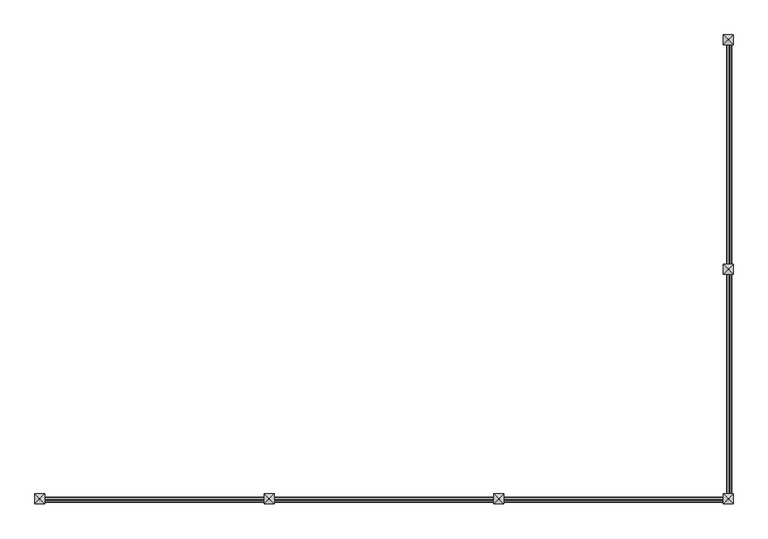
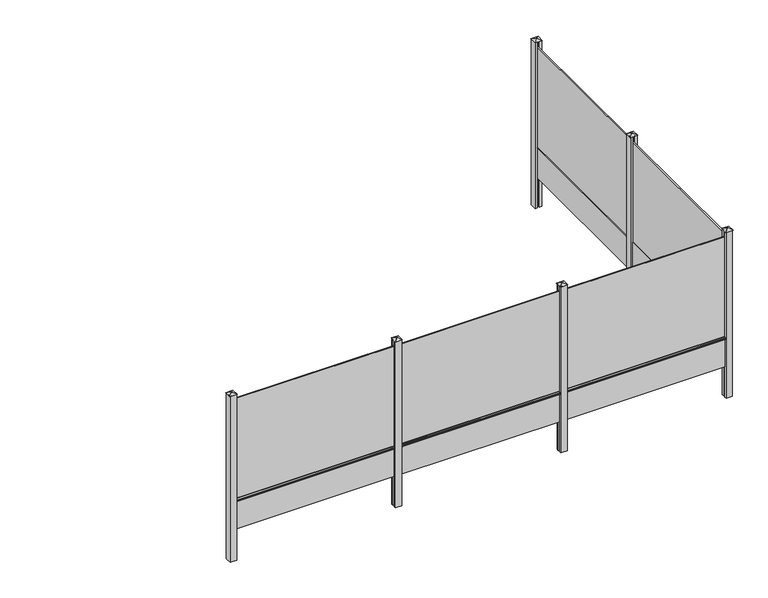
"""IFC4 building model written with IfcOpenShell, lengths in millimetres: railing geometry, Mehat - Railing - Plaque de Soubassement - Classique pour clôture rigide - 254x50x3.4 cm."""

from ifc_helpers import new_model, si_unit, point, frame, frame_2d, origin, origin_with_axes, place, context, project, spatial, polyline, circle_curve, trimmed, segment, composite_curve, outline, extrude, faceted_brep, source, transform, mapped, element, save


def railing_afe94d72(model_context):
    return source(origin(), model_context, "Body", "SolidModel", [
        extrude(outline(polyline([(63896.2516516, -10787.4943936), (63879.2516516, -10787.4943936), (63879.2516516, -8247.4943936), (63896.2516516, -8247.4943936), (63896.2516516, -10787.4943936)])), frame((0.0, 0.0, 500.0), z_axis=(0.0, 0.0, 1.0), x_axis=(1.0, 0.0, 0.0)), (0.0, 0.0, 1.0), 1650.0),
        extrude(outline(polyline([(63904.7516516, -10787.4943936), (63870.7516516, -10787.4943936), (63870.7516516, -8247.4943936), (63904.7516516, -8247.4943936), (63904.7516516, -10787.4943936)])), origin_with_axes(), (0.0, 0.0, 1.0), 500.0),
        extrude(outline(composite_curve([segment(polyline([(460.0, 63904.7516516), (467.1937129, 63926.3327905)]), True, "CONTINUOUS"), segment(trimmed(circle_curve(frame_2d((471.9371294, 63924.7516516)), 5.0), [point((467.1937129, 63926.3327905))], [point((471.9371294, 63929.7516516))], False, "CARTESIAN"), True, "CONTINUOUS"), segment(polyline([(471.9371294, 63929.7516516), (488.0628706, 63929.7516516)]), True, "CONTINUOUS"), segment(trimmed(circle_curve(frame_2d((488.0628706, 63924.7516516)), 5.0), [point((488.0628706, 63929.7516516))], [point((492.8062871, 63926.3327905))], False, "CARTESIAN"), True, "CONTINUOUS"), segment(polyline([(492.8062871, 63926.3327905), (500.0, 63904.7516516), (460.0, 63904.7516516)]), True, "CONTINUOUS")], self_intersect=False)), frame((0.0, -10762.4943936, 0.0), z_axis=(0.0, 1.0, 0.0), x_axis=(0.0, 0.0, 1.0)), (0.0, 0.0, 1.0), 2490.0),
        extrude(outline(polyline([(63937.7516516, -10862.4943936), (63904.7516516, -10862.4943936), (63904.7516516, -10837.4943936), (63870.7516516, -10837.4943936), (63870.7516516, -10862.4943936), (63837.7516516, -10862.4943936), (63837.7516516, -10762.4943936), (63870.7516516, -10762.4943936), (63870.7516516, -10787.4943936), (63904.7516516, -10787.4943936), (63904.7516516, -10762.4943936), (63937.7516516, -10762.4943936), (63937.7516516, -10862.4943936)])), frame((0.0, 0.0, -500.0), z_axis=(0.0, 0.0, 1.0), x_axis=(1.0, 0.0, 0.0)), (0.0, 0.0, 1.0), 2750.0),
        faceted_brep([(63881.3471055, -10806.1443936, 2275.4), (63881.3471055, -10818.8443936, 2275.4), (63894.0471055, -10818.8443936, 2275.4), (63894.0471055, -10806.1443936, 2275.4), (63831.4016516, -10756.1443936, 2250.0), (63944.1016516, -10756.1443936, 2250.0), (63944.1016516, -10868.8443936, 2250.0), (63831.4016516, -10868.8443936, 2250.0)], [[[0, 1, 2, 3]], [[4, 5, 6, 7]], [[4, 0, 3, 5]], [[5, 3, 2, 6]], [[6, 2, 1, 7]], [[7, 1, 0, 4]]]),
        extrude(outline(polyline([(63896.2516516, -13377.4943936), (63879.2516516, -13377.4943936), (63879.2516516, -10837.4943936), (63896.2516516, -10837.4943936), (63896.2516516, -13377.4943936)])), frame((0.0, 0.0, 500.0), z_axis=(0.0, 0.0, 1.0), x_axis=(1.0, 0.0, 0.0)), (0.0, 0.0, 1.0), 1650.0),
        extrude(outline(polyline([(63904.7516516, -13377.4943936), (63870.7516516, -13377.4943936), (63870.7516516, -10837.4943936), (63904.7516516, -10837.4943936), (63904.7516516, -13377.4943936)])), origin_with_axes(), (0.0, 0.0, 1.0), 500.0),
        extrude(outline(composite_curve([segment(polyline([(460.0, 63904.7516516), (467.1937129, 63926.3327905)]), True, "CONTINUOUS"), segment(trimmed(circle_curve(frame_2d((471.9371294, 63924.7516516)), 5.0), [point((467.1937129, 63926.3327905))], [point((471.9371294, 63929.7516516))], False, "CARTESIAN"), True, "CONTINUOUS"), segment(polyline([(471.9371294, 63929.7516516), (488.0628706, 63929.7516516)]), True, "CONTINUOUS"), segment(trimmed(circle_curve(frame_2d((488.0628706, 63924.7516516)), 5.0), [point((488.0628706, 63929.7516516))], [point((492.8062871, 63926.3327905))], False, "CARTESIAN"), True, "CONTINUOUS"), segment(polyline([(492.8062871, 63926.3327905), (500.0, 63904.7516516), (460.0, 63904.7516516)]), True, "CONTINUOUS")], self_intersect=False)), frame((0.0, -13352.4943936, 0.0), z_axis=(0.0, 1.0, 0.0), x_axis=(0.0, 0.0, 1.0)), (0.0, 0.0, 1.0), 2490.0),
        extrude(outline(polyline([(61322.7516516, -13410.9943936), (61322.7516516, -13393.9943936), (63862.7516516, -13393.9943936), (63862.7516516, -13410.9943936), (61322.7516516, -13410.9943936)])), frame((0.0, 0.0, 500.0), z_axis=(0.0, 0.0, 1.0), x_axis=(1.0, 0.0, 0.0)), (0.0, 0.0, 1.0), 1650.0),
        extrude(outline(polyline([(61322.7516516, -13419.4943936), (61322.7516516, -13385.4943936), (63862.7516516, -13385.4943936), (63862.7516516, -13419.4943936), (61322.7516516, -13419.4943936)])), origin_with_axes(), (0.0, 0.0, 1.0), 500.0),
        extrude(outline(composite_curve([segment(polyline([(-13419.4943936, 460.0), (-13441.0755325, 467.1937129)]), True, "CONTINUOUS"), segment(trimmed(circle_curve(frame_2d((-13439.4943936, 471.9371294)), 5.0), [point((-13441.0755325, 467.1937129))], [point((-13444.4943936, 471.9371294))], False, "CARTESIAN"), True, "CONTINUOUS"), segment(polyline([(-13444.4943936, 471.9371294), (-13444.4943936, 488.0628706)]), True, "CONTINUOUS"), segment(trimmed(circle_curve(frame_2d((-13439.4943936, 488.0628706)), 5.0), [point((-13444.4943936, 488.0628706))], [point((-13441.0755325, 492.8062871))], False, "CARTESIAN"), True, "CONTINUOUS"), segment(polyline([(-13441.0755325, 492.8062871), (-13419.4943936, 500.0), (-13419.4943936, 460.0)]), True, "CONTINUOUS")], self_intersect=False)), frame((61347.7516516, 0.0, 0.0), z_axis=(1.0, 0.0, 0.0), x_axis=(0.0, 1.0, 0.0)), (0.0, 0.0, 1.0), 2490.0),
        extrude(outline(polyline([(61247.7516516, -13452.4943936), (61247.7516516, -13419.4943936), (61272.7516516, -13419.4943936), (61272.7516516, -13385.4943936), (61247.7516516, -13385.4943936), (61247.7516516, -13352.4943936), (61347.7516516, -13352.4943936), (61347.7516516, -13385.4943936), (61322.7516516, -13385.4943936), (61322.7516516, -13419.4943936), (61347.7516516, -13419.4943936), (61347.7516516, -13452.4943936), (61247.7516516, -13452.4943936)])), frame((0.0, 0.0, -500.0), z_axis=(0.0, 0.0, 1.0), x_axis=(1.0, 0.0, 0.0)), (0.0, 0.0, 1.0), 2750.0),
        faceted_brep([(61304.1016516, -13396.0898475, 2275.4), (61291.4016516, -13396.0898475, 2275.4), (61291.4016516, -13408.7898475, 2275.4), (61304.1016516, -13408.7898475, 2275.4), (61354.1016516, -13346.1443936, 2250.0), (61354.1016516, -13458.8443936, 2250.0), (61241.4016516, -13458.8443936, 2250.0), (61241.4016516, -13346.1443936, 2250.0)], [[[0, 1, 2, 3]], [[4, 5, 6, 7]], [[4, 0, 3, 5]], [[5, 3, 2, 6]], [[6, 2, 1, 7]], [[7, 1, 0, 4]]]),
        extrude(outline(polyline([(58732.7516516, -13410.9943936), (58732.7516516, -13393.9943936), (61272.7516516, -13393.9943936), (61272.7516516, -13410.9943936), (58732.7516516, -13410.9943936)])), frame((0.0, 0.0, 500.0), z_axis=(0.0, 0.0, 1.0), x_axis=(1.0, 0.0, 0.0)), (0.0, 0.0, 1.0), 1650.0),
        extrude(outline(polyline([(58732.7516516, -13419.4943936), (58732.7516516, -13385.4943936), (61272.7516516, -13385.4943936), (61272.7516516, -13419.4943936), (58732.7516516, -13419.4943936)])), origin_with_axes(), (0.0, 0.0, 1.0), 500.0),
        extrude(outline(composite_curve([segment(polyline([(-13419.4943936, 460.0), (-13441.0755325, 467.1937129)]), True, "CONTINUOUS"), segment(trimmed(circle_curve(frame_2d((-13439.4943936, 471.9371294)), 5.0), [point((-13441.0755325, 467.1937129))], [point((-13444.4943936, 471.9371294))], False, "CARTESIAN"), True, "CONTINUOUS"), segment(polyline([(-13444.4943936, 471.9371294), (-13444.4943936, 488.0628706)]), True, "CONTINUOUS"), segment(trimmed(circle_curve(frame_2d((-13439.4943936, 488.0628706)), 5.0), [point((-13444.4943936, 488.0628706))], [point((-13441.0755325, 492.8062871))], False, "CARTESIAN"), True, "CONTINUOUS"), segment(polyline([(-13441.0755325, 492.8062871), (-13419.4943936, 500.0), (-13419.4943936, 460.0)]), True, "CONTINUOUS")], self_intersect=False)), frame((58757.7516516, 0.0, 0.0), z_axis=(1.0, 0.0, 0.0), x_axis=(0.0, 1.0, 0.0)), (0.0, 0.0, 1.0), 2490.0),
        extrude(outline(polyline([(58657.7516516, -13452.4943936), (58657.7516516, -13419.4943936), (58682.7516516, -13419.4943936), (58682.7516516, -13385.4943936), (58657.7516516, -13385.4943936), (58657.7516516, -13352.4943936), (58757.7516516, -13352.4943936), (58757.7516516, -13385.4943936), (58732.7516516, -13385.4943936), (58732.7516516, -13419.4943936), (58757.7516516, -13419.4943936), (58757.7516516, -13452.4943936), (58657.7516516, -13452.4943936)])), frame((0.0, 0.0, -500.0), z_axis=(0.0, 0.0, 1.0), x_axis=(1.0, 0.0, 0.0)), (0.0, 0.0, 1.0), 2750.0),
        faceted_brep([(58714.1016516, -13396.0898475, 2275.4), (58701.4016516, -13396.0898475, 2275.4), (58701.4016516, -13408.7898475, 2275.4), (58714.1016516, -13408.7898475, 2275.4), (58764.1016516, -13346.1443936, 2250.0), (58764.1016516, -13458.8443936, 2250.0), (58651.4016516, -13458.8443936, 2250.0), (58651.4016516, -13346.1443936, 2250.0)], [[[0, 1, 2, 3]], [[4, 5, 6, 7]], [[4, 0, 3, 5]], [[5, 3, 2, 6]], [[6, 2, 1, 7]], [[7, 1, 0, 4]]]),
        extrude(outline(polyline([(56142.7516516, -13410.9943936), (56142.7516516, -13393.9943936), (58682.7516516, -13393.9943936), (58682.7516516, -13410.9943936), (56142.7516516, -13410.9943936)])), frame((0.0, 0.0, 500.0), z_axis=(0.0, 0.0, 1.0), x_axis=(1.0, 0.0, 0.0)), (0.0, 0.0, 1.0), 1650.0),
        extrude(outline(polyline([(56142.7516516, -13419.4943936), (56142.7516516, -13385.4943936), (58682.7516516, -13385.4943936), (58682.7516516, -13419.4943936), (56142.7516516, -13419.4943936)])), origin_with_axes(), (0.0, 0.0, 1.0), 500.0),
        extrude(outline(composite_curve([segment(polyline([(-13419.4943936, 460.0), (-13441.0755325, 467.1937129)]), True, "CONTINUOUS"), segment(trimmed(circle_curve(frame_2d((-13439.4943936, 471.9371294)), 5.0), [point((-13441.0755325, 467.1937129))], [point((-13444.4943936, 471.9371294))], False, "CARTESIAN"), True, "CONTINUOUS"), segment(polyline([(-13444.4943936, 471.9371294), (-13444.4943936, 488.0628706)]), True, "CONTINUOUS"), segment(trimmed(circle_curve(frame_2d((-13439.4943936, 488.0628706)), 5.0), [point((-13444.4943936, 488.0628706))], [point((-13441.0755325, 492.8062871))], False, "CARTESIAN"), True, "CONTINUOUS"), segment(polyline([(-13441.0755325, 492.8062871), (-13419.4943936, 500.0), (-13419.4943936, 460.0)]), True, "CONTINUOUS")], self_intersect=False)), frame((56167.7516516, 0.0, 0.0), z_axis=(1.0, 0.0, 0.0), x_axis=(0.0, 1.0, 0.0)), (0.0, 0.0, 1.0), 2490.0),
        extrude(outline(polyline([(63837.7516516, -13452.4943936), (63837.7516516, -13419.4943936), (63862.7516516, -13419.4943936), (63862.7516516, -13385.4943936), (63837.7516516, -13385.4943936), (63837.7516516, -13352.4943936), (63870.7516516, -13352.4943936), (63870.7516516, -13377.4943936), (63904.7516516, -13377.4943936), (63904.7516516, -13352.4943936), (63937.7516516, -13352.4943936), (63937.7516516, -13452.4943936), (63837.7516516, -13452.4943936)])), frame((0.0, 0.0, -500.0), z_axis=(0.0, 0.0, 1.0), x_axis=(1.0, 0.0, 0.0)), (0.0, 0.0, 1.0), 2750.0),
        faceted_brep([(63894.1016516, -13396.0898475, 2275.4), (63881.4016516, -13396.0898475, 2275.4), (63881.4016516, -13408.7898475, 2275.4), (63894.1016516, -13408.7898475, 2275.4), (63944.1016516, -13346.1443936, 2250.0), (63944.1016516, -13458.8443936, 2250.0), (63831.4016516, -13458.8443936, 2250.0), (63831.4016516, -13346.1443936, 2250.0)], [[[0, 1, 2, 3]], [[4, 5, 6, 7]], [[4, 0, 3, 5]], [[5, 3, 2, 6]], [[6, 2, 1, 7]], [[7, 1, 0, 4]]]),
        extrude(outline(polyline([(63937.7516516, -8272.4943936), (63904.7516516, -8272.4943936), (63904.7516516, -8247.4943936), (63870.7516516, -8247.4943936), (63870.7516516, -8272.4943936), (63837.7516516, -8272.4943936), (63837.7516516, -8172.4943936), (63937.7516516, -8172.4943936), (63937.7516516, -8272.4943936)])), frame((0.0, 0.0, -500.0), z_axis=(0.0, 0.0, 1.0), x_axis=(1.0, 0.0, 0.0)), (0.0, 0.0, 1.0), 2750.0),
        faceted_brep([(63881.3471055, -8216.1443936, 2275.4), (63881.3471055, -8228.8443936, 2275.4), (63894.0471055, -8228.8443936, 2275.4), (63894.0471055, -8216.1443936, 2275.4), (63831.4016516, -8166.1443936, 2250.0), (63944.1016516, -8166.1443936, 2250.0), (63944.1016516, -8278.8443936, 2250.0), (63831.4016516, -8278.8443936, 2250.0)], [[[0, 1, 2, 3]], [[4, 5, 6, 7]], [[4, 0, 3, 5]], [[5, 3, 2, 6]], [[6, 2, 1, 7]], [[7, 1, 0, 4]]]),
        extrude(outline(polyline([(56067.7516516, -13452.4943936), (56067.7516516, -13352.4943936), (56167.7516516, -13352.4943936), (56167.7516516, -13385.4943936), (56142.7516516, -13385.4943936), (56142.7516516, -13419.4943936), (56167.7516516, -13419.4943936), (56167.7516516, -13452.4943936), (56067.7516516, -13452.4943936)])), frame((0.0, 0.0, -500.0), z_axis=(0.0, 0.0, 1.0), x_axis=(1.0, 0.0, 0.0)), (0.0, 0.0, 1.0), 2750.0),
        faceted_brep([(56124.1016516, -13396.0898475, 2275.4), (56111.4016516, -13396.0898475, 2275.4), (56111.4016516, -13408.7898475, 2275.4), (56124.1016516, -13408.7898475, 2275.4), (56174.1016516, -13346.1443936, 2250.0), (56174.1016516, -13458.8443936, 2250.0), (56061.4016516, -13458.8443936, 2250.0), (56061.4016516, -13346.1443936, 2250.0)], [[[0, 1, 2, 3]], [[4, 5, 6, 7]], [[4, 0, 3, 5]], [[5, 3, 2, 6]], [[6, 2, 1, 7]], [[7, 1, 0, 4]]]),
    ])


if __name__ == "__main__":
    model = new_model("IFC4")
    model_context = context("Model", 3, world=origin())
    ifc_project = project(units=[si_unit("LENGTHUNIT", "METRE", prefix="MILLI")], contexts=[model_context])
    site = spatial("IfcSite", under=ifc_project)
    building = spatial("IfcBuilding", under=site)
    placement = place(None, origin())
    railing_shape = railing_afe94d72(model_context)
    element("IfcRailing", 1, ObjectType="Mehat - Railing - Plaque de Soubassement - Classique pour clôture rigide - 254x50x3.4 cm", at=placement, inside=building, context=model_context, shape_type="MappedRepresentation", body=[
        mapped(railing_shape, transform((0.0, 0.0, 0.0), x_axis=(1.0, 0.0, 0.0), y_axis=(0.0, 1.0, 0.0), z_axis=(0.0, 0.0, 1.0))),
    ])
    save(model, "model.ifc")
